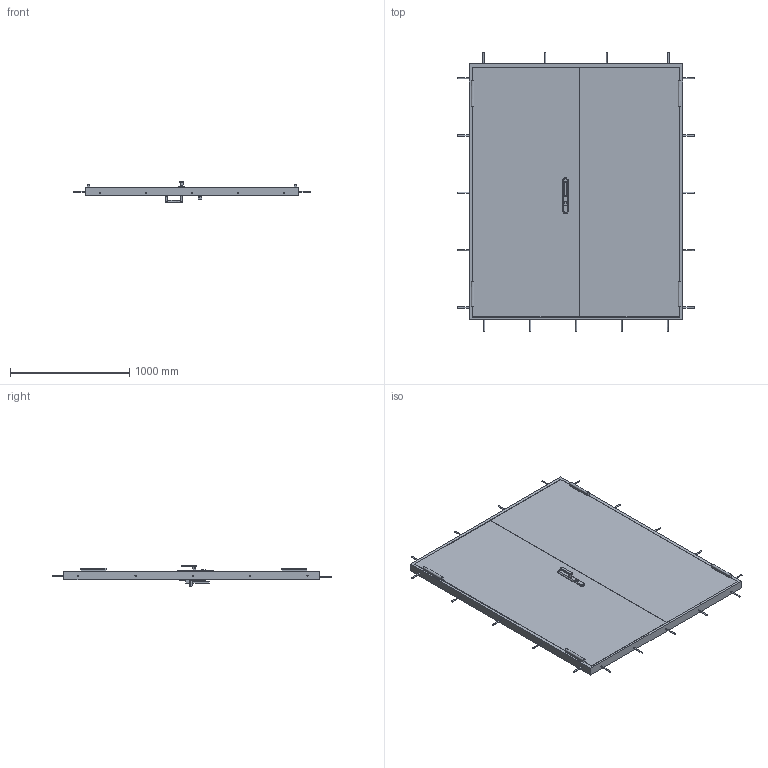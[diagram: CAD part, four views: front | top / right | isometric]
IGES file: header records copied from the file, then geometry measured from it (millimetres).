
Start section:  PTC IGES file: 51797893.igs
Global section: file name: 51797893.igs; native system: Creo Parametric by PTC Inc.; preprocessor: 2021304; author: ka; organization: Unknown; date: 20220317.120524; units: millimetre
Bounding box: 1990 x 2347 x 181.5 mm (x, y, z)
Surface area: 9012314.1 mm2 (no closed solid volume)
Topology: 0 solids, 0 shells, 177 faces, 860 edges, 860 vertices
Faces by surface type: bspline 101, revolution 76
